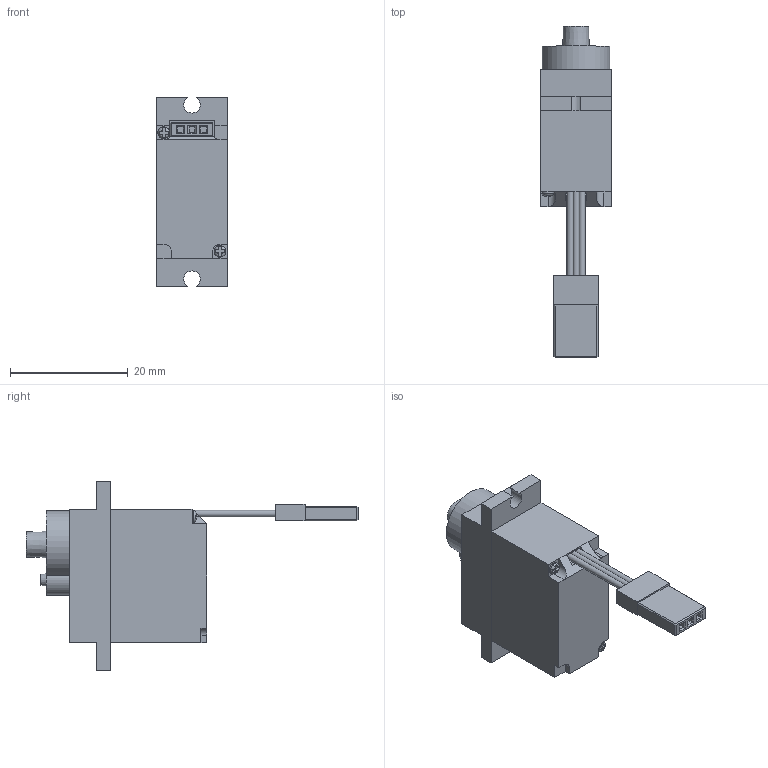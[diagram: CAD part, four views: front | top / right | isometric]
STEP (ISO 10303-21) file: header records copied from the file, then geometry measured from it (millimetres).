
FILE_DESCRIPTION(/* description */ (''),/* implementation_level */ '2;1');
FILE_NAME(/* name */ 'SG90 servo motor v1.step',/* time_stamp */ '2025-09-03T17:19:45-04:00',/* author */ (''),/* organization */ (''),/* preprocessor_version */ 'ST-DEVELOPER v20',/* originating_system */ 'Autodesk Translation Framework v13.14.0.145',/* authorisation */ '');
FILE_SCHEMA (('AUTOMOTIVE_DESIGN { 1 0 10303 214 3 1 1 }'));
Length unit declared in the file: millimetre
Products named in the file (4): SG90 servo motor; Component1; Component2; Component3
Assembly tree (3 placements, depth 2):
  SG90 servo motor
    Component1
    Component2
    Component3
Bounding box: 12 x 56.4 x 32 mm (x, y, z)
Volume: 7358.1 mm3; surface area: 3912.3 mm2
Topology: 9 solids, 9 shells, 152 faces, 350 edges, 223 vertices
Faces by surface type: plane 132, cylinder 16, cone 2, bspline 2
Full cylindrical faces by diameter (mm): 1.1 x3, 2 x3, 4.5 x2
Entity records: 4436 total; most frequent: CARTESIAN_POINT 910, ORIENTED_EDGE 700, DIRECTION 681, EDGE_CURVE 350, LINE 277, VECTOR 277, VERTEX_POINT 223, AXIS2_PLACEMENT_3D 202
